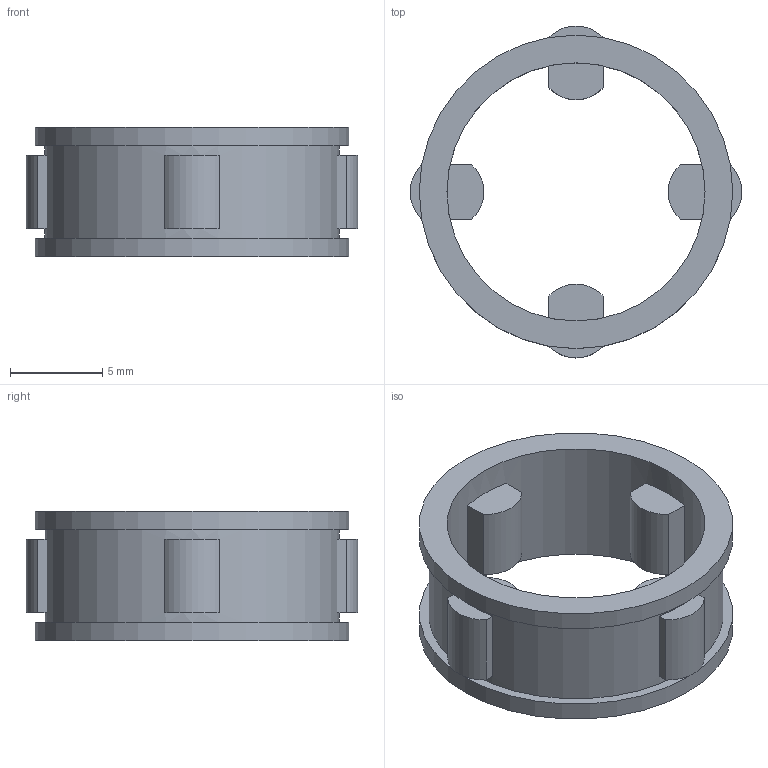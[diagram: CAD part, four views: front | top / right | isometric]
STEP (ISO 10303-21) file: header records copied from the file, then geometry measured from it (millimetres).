
FILE_DESCRIPTION(/* description */ (''),/* implementation_level */ '2;1');
FILE_NAME(/* name */ '300401 FE 418 Z2.stp',/* time_stamp */ '2016-11-03T13:58:56+01:00',/* author */ (''),/* organization */ (''),/* preprocessor_version */ 'ST-DEVELOPER v15',/* originating_system */ 'SIEMENS PLM Software NX 8.5',/* authorisation */ '');
FILE_SCHEMA (('CONFIG_CONTROL_DESIGN'));
Length unit declared in the file: millimetre
Products named in the file (1): ATE0000079_01
Bounding box: 18 x 18 x 7 mm (x, y, z)
Volume: 503.9 mm3; surface area: 990.1 mm2
Topology: 1 solids, 1 shells, 48 faces, 114 edges, 76 vertices
Faces by surface type: plane 36, cylinder 12
Full cylindrical faces by diameter (mm): 14 x1, 16 x1, 17 x2
Entity records: 1420 total; most frequent: DIRECTION 242, CARTESIAN_POINT 225, ORIENTED_EDGE 208, EDGE_CURVE 104, AXIS2_PLACEMENT_3D 89, VERTEX_POINT 72, LINE 64, VECTOR 64
